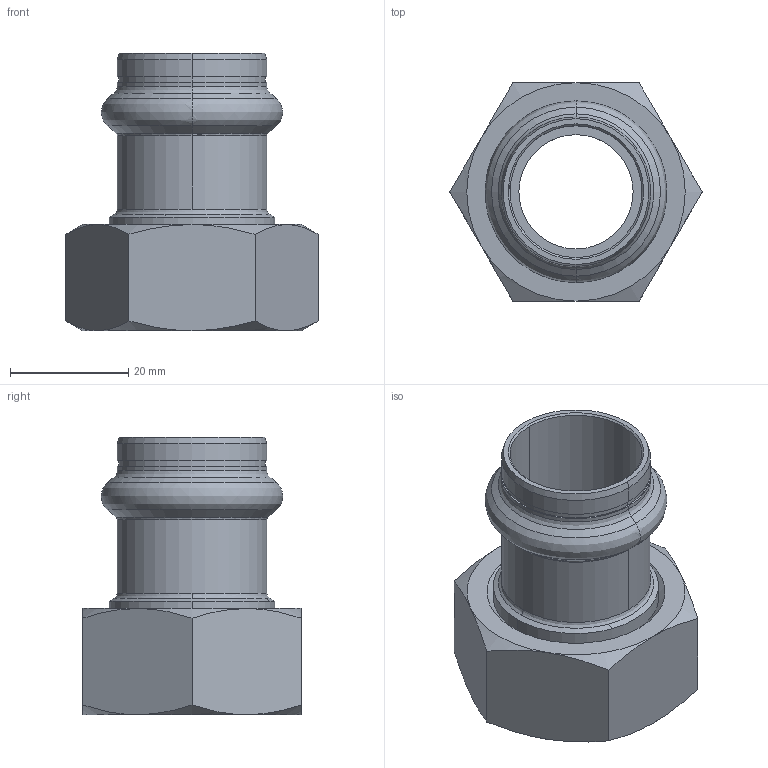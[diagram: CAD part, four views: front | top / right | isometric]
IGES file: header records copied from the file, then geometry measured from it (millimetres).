
Start section: Elysium IGES Interface
Global section: file name: C:\Users\Wallenburg\Desktop\3d modellen sudo\S-Pr VP\SP6359GV\6359GVW221.igs; native system: CoCreate Modeling 17.00A  17-Jun-2010; preprocessor: CoCreate IGES_3D V2.2; author: Unknown; organization: Unknown; date: 20130124.130343; units: millimetre
Bounding box: 42.72 x 37 x 47.01 mm (x, y, z)
Volume: 15921.2 mm3; surface area: 11365 mm2
Topology: 2 solids, 2 shells, 86 faces, 202 edges, 120 vertices
Faces by surface type: bspline 86
